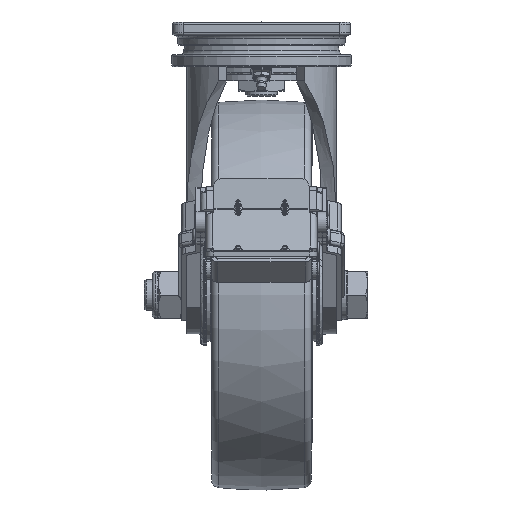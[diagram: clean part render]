
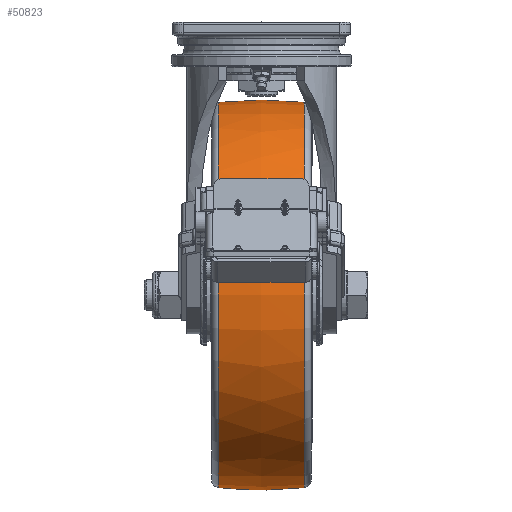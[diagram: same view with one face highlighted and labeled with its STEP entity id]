
A CAD part, left-side view. The second image highlights one B-rep face of the part: STEP entity #50823.
In plain terms, the highlighted free-form (B-spline) face has degree [2, 2] with [3, 9] control points.
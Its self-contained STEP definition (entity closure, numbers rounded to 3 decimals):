
#57=(
BOUNDED_CURVE()
B_SPLINE_CURVE(2,(#93182,#93183,#93184),.UNSPECIFIED.,.F.,.F.)
B_SPLINE_CURVE_WITH_KNOTS((3,3),(-0.11,0.11),
 .UNSPECIFIED.)
CURVE()
GEOMETRIC_REPRESENTATION_ITEM()
RATIONAL_B_SPLINE_CURVE((1.,0.994,1.))
REPRESENTATION_ITEM('')
);
#4322=(
BOUNDED_SURFACE()
B_SPLINE_SURFACE(2,2,((#93154,#93155,#93156,#93157,#93158,#93159,#93160,
#93161,#93162),(#93163,#93164,#93165,#93166,#93167,#93168,#93169,#93170,
#93171),(#93172,#93173,#93174,#93175,#93176,#93177,#93178,#93179,#93180)),
 .UNSPECIFIED.,.F.,.T.,.F.)
B_SPLINE_SURFACE_WITH_KNOTS((3,3),(3,2,2,2,3),(-0.11,0.11),
(-3.142,-1.571,0.,1.571,3.142),
 .UNSPECIFIED.)
GEOMETRIC_REPRESENTATION_ITEM()
RATIONAL_B_SPLINE_SURFACE(((1.,0.707,1.,0.707,1.,
0.707,1.,0.707,1.),(0.994,0.703,
0.994,0.703,0.994,0.703,
0.994,0.703,0.994),(1.,0.707,
1.,0.707,1.,0.707,1.,0.707,1.)))
REPRESENTATION_ITEM('')
SURFACE()
);
#8116=FACE_OUTER_BOUND('',#11295,.T.);
#11295=EDGE_LOOP('',(#43714,#43715,#43716,#43717,#43718,#43719));
#21238=CIRCLE('',#54897,12.348);
#21239=CIRCLE('',#54898,12.348);
#21240=CIRCLE('',#54899,12.348);
#21241=CIRCLE('',#54900,12.348);
#25119=VERTEX_POINT('',#93150);
#25120=VERTEX_POINT('',#93151);
#25121=VERTEX_POINT('',#93181);
#25122=VERTEX_POINT('',#93185);
#31597=EDGE_CURVE('',#25119,#25120,#21238,.T.);
#31598=EDGE_CURVE('',#25120,#25119,#21239,.T.);
#31599=EDGE_CURVE('',#25120,#25121,#57,.T.);
#31600=EDGE_CURVE('',#25121,#25122,#21240,.T.);
#31601=EDGE_CURVE('',#25122,#25121,#21241,.T.);
#43714=ORIENTED_EDGE('',*,*,#31597,.F.);
#43715=ORIENTED_EDGE('',*,*,#31598,.F.);
#43716=ORIENTED_EDGE('',*,*,#31599,.T.);
#43717=ORIENTED_EDGE('',*,*,#31600,.T.);
#43718=ORIENTED_EDGE('',*,*,#31601,.T.);
#43719=ORIENTED_EDGE('',*,*,#31599,.F.);
#50823=ADVANCED_FACE('',(#8116),#4322,.F.);
#54897=AXIS2_PLACEMENT_3D('',#93152,#64936,#64937);
#54898=AXIS2_PLACEMENT_3D('',#93153,#64938,#64939);
#54899=AXIS2_PLACEMENT_3D('',#93186,#64940,#64941);
#54900=AXIS2_PLACEMENT_3D('',#93187,#64942,#64943);
#64936=DIRECTION('center_axis',(0.,-1.,0.));
#64937=DIRECTION('ref_axis',(0.,0.,
1.));
#64938=DIRECTION('center_axis',(0.,-1.,0.));
#64939=DIRECTION('ref_axis',(0.,0.,
1.));
#64940=DIRECTION('center_axis',(0.,-1.,0.));
#64941=DIRECTION('ref_axis',(0.,0.,
1.));
#64942=DIRECTION('center_axis',(0.,-1.,0.));
#64943=DIRECTION('ref_axis',(0.,0.,
1.));
#93150=CARTESIAN_POINT('',(-6.268,-2.755,-15.125));
#93151=CARTESIAN_POINT('',(6.08,-2.755,-27.473));
#93152=CARTESIAN_POINT('Origin',(6.08,-2.755,-15.125));
#93153=CARTESIAN_POINT('Origin',(6.08,-2.755,-15.125));
#93154=CARTESIAN_POINT('Ctrl Pts',(6.08,2.755,-27.473));
#93155=CARTESIAN_POINT('Ctrl Pts',(18.427,2.755,-27.473));
#93156=CARTESIAN_POINT('Ctrl Pts',(18.427,2.755,-15.125));
#93157=CARTESIAN_POINT('Ctrl Pts',(18.427,2.755,-2.777));
#93158=CARTESIAN_POINT('Ctrl Pts',(6.08,2.755,-2.777));
#93159=CARTESIAN_POINT('Ctrl Pts',(-6.268,2.755,-2.777));
#93160=CARTESIAN_POINT('Ctrl Pts',(-6.268,2.755,-15.125));
#93161=CARTESIAN_POINT('Ctrl Pts',(-6.268,2.755,-27.473));
#93162=CARTESIAN_POINT('Ctrl Pts',(6.08,2.755,-27.473));
#93163=CARTESIAN_POINT('Ctrl Pts',(6.08,0.,
-27.778));
#93164=CARTESIAN_POINT('Ctrl Pts',(18.733,0.,
-27.778));
#93165=CARTESIAN_POINT('Ctrl Pts',(18.733,0.,
-15.125));
#93166=CARTESIAN_POINT('Ctrl Pts',(18.733,0.,
-2.472));
#93167=CARTESIAN_POINT('Ctrl Pts',(6.08,0.,
-2.472));
#93168=CARTESIAN_POINT('Ctrl Pts',(-6.574,0.,
-2.472));
#93169=CARTESIAN_POINT('Ctrl Pts',(-6.574,0.,
-15.125));
#93170=CARTESIAN_POINT('Ctrl Pts',(-6.574,0.,
-27.778));
#93171=CARTESIAN_POINT('Ctrl Pts',(6.08,0.,
-27.778));
#93172=CARTESIAN_POINT('Ctrl Pts',(6.08,-2.755,-27.473));
#93173=CARTESIAN_POINT('Ctrl Pts',(18.427,-2.755,-27.473));
#93174=CARTESIAN_POINT('Ctrl Pts',(18.427,-2.755,-15.125));
#93175=CARTESIAN_POINT('Ctrl Pts',(18.427,-2.755,-2.777));
#93176=CARTESIAN_POINT('Ctrl Pts',(6.08,-2.755,-2.777));
#93177=CARTESIAN_POINT('Ctrl Pts',(-6.268,-2.755,
-2.777));
#93178=CARTESIAN_POINT('Ctrl Pts',(-6.268,-2.755,
-15.125));
#93179=CARTESIAN_POINT('Ctrl Pts',(-6.268,-2.755,
-27.473));
#93180=CARTESIAN_POINT('Ctrl Pts',(6.08,-2.755,-27.473));
#93181=CARTESIAN_POINT('',(6.08,2.755,-27.473));
#93182=CARTESIAN_POINT('Ctrl Pts',(6.08,-2.755,-27.473));
#93183=CARTESIAN_POINT('Ctrl Pts',(6.08,0.,
-27.778));
#93184=CARTESIAN_POINT('Ctrl Pts',(6.08,2.755,-27.473));
#93185=CARTESIAN_POINT('',(-6.268,2.755,-15.125));
#93186=CARTESIAN_POINT('Origin',(6.08,2.755,-15.125));
#93187=CARTESIAN_POINT('Origin',(6.08,2.755,-15.125));
